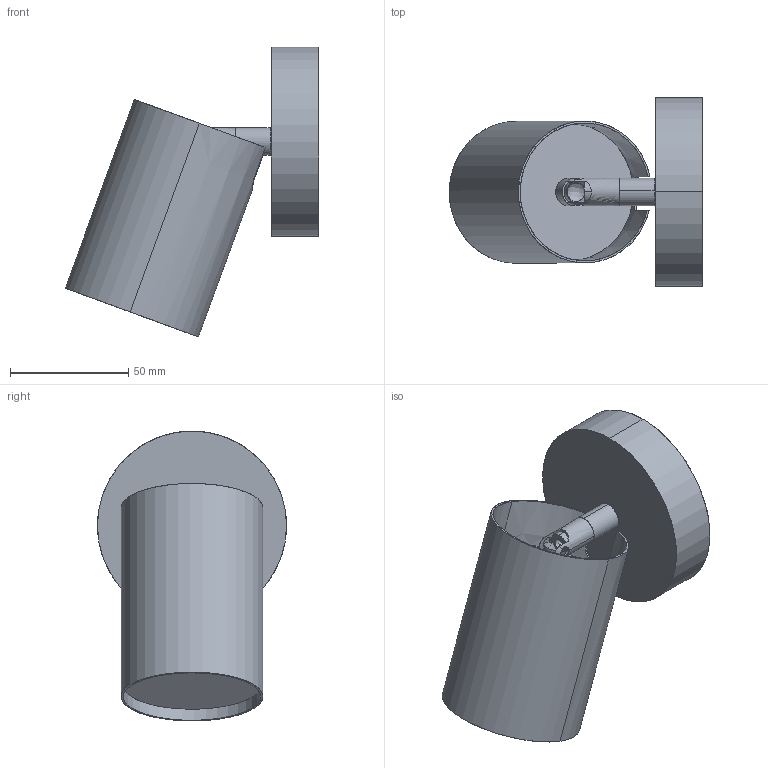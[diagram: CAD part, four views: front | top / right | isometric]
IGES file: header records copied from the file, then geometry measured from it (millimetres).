
Start section: SolidWorks IGES file using analytic representation for surfaces
Global section: file name: C:\Users\Agus\Desktop\NOVEDADES SEPT 2022 - copia\TÉCNICO\T1278\T1278.IGS; native system: SolidWorks 2018; preprocessor: SolidWorks 2018; author: Agus; date: 220622.130127; units: millimetre
Bounding box: 107.2 x 80 x 122.62 mm (x, y, z)
Surface area: 44904.6 mm2 (no closed solid volume)
Topology: 0 solids, 0 shells, 64 faces, 1700 edges, 1697 vertices
Faces by surface type: revolution 40, bspline 24
